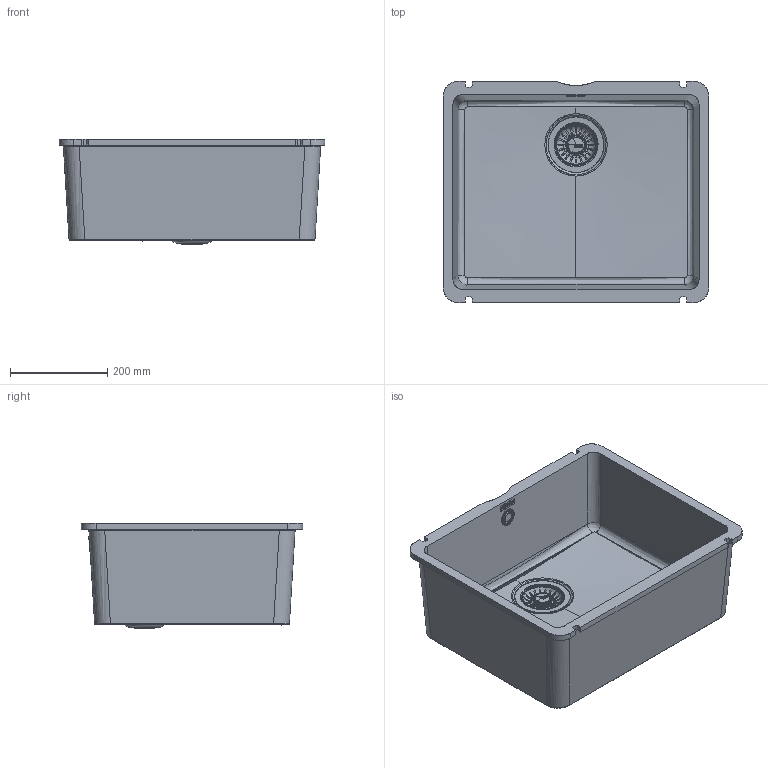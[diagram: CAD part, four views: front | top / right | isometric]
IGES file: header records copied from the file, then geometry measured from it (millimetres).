
Global section: file name: F:\_CONVERSIONE_CAD_2024_2025\PACCHETTI_2026\NUOVI_PACCHETTI_LUGLIO\PRIORITY_2\3D001_Sinks_KubusX_KXK_110-51\3D001_Sinks_KubusX_KXK_110-51.igs; native system: Rhinoceros ( May  6 2026 ); preprocessor: Trout Lake IGES 012 May  6 2026; date: 260708.150039; units: millimetre
Bounding box: 545 x 454 x 217.29 mm (x, y, z)
Surface area: 1212410.5 mm2 (no closed solid volume)
Topology: 0 solids, 0 shells, 1587 faces, 9492 edges, 9415 vertices
Faces by surface type: bspline 1587
